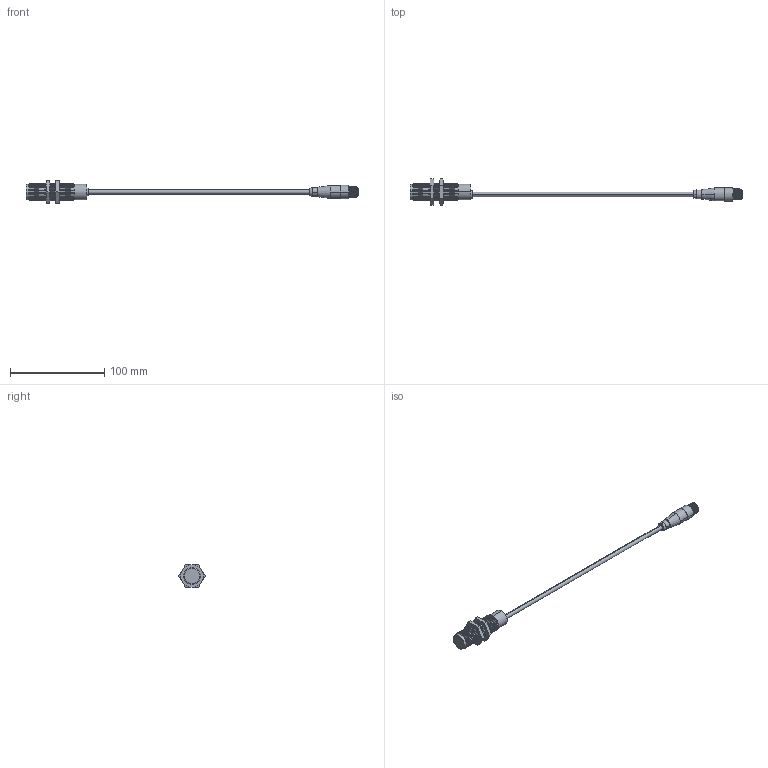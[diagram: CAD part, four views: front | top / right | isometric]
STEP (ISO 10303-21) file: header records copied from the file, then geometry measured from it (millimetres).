
FILE_DESCRIPTION (( 'STEP AP214' ), '1' );
FILE_NAME ('90-29356-036.STEP', '2015-09-16T13:41:42', ( 'Sam' ), ( 'Spade' ), 'SwSTEP 2.0', 'SolidWorks 2002296', '' );
FILE_SCHEMA (( 'AUTOMOTIVE_DESIGN' ));
Length unit declared in the file: inch
Products named in the file (12): 90-29356-036; Imported13; Imported12; Imported22; Imported21; Imported20; Imported19; Imported18; Imported17; Imported16; Imported15; Imported14
Assembly tree (11 placements, depth 2):
  90-29356-036
    Imported14
    Imported21
    Imported19
    Imported20
    Imported18
    Imported16
    Imported17
    Imported22
    Imported15
    Imported13
    Imported12
Bounding box: 353.19 x 27.69 x 23.98 mm (x, y, z)
Volume: 28456.7 mm3; surface area: 16747.6 mm2
Topology: 11 solids, 11 shells, 496 faces, 1149 edges, 685 vertices
Faces by surface type: cone 290, cylinder 139, plane 53, bspline 14
Entity records: 15058 total; most frequent: CARTESIAN_POINT 3068, DIRECTION 2723, ORIENTED_EDGE 2286, AXIS2_PLACEMENT_3D 1144, EDGE_CURVE 1143, VERTEX_POINT 685, CIRCLE 648, EDGE_LOOP 518
